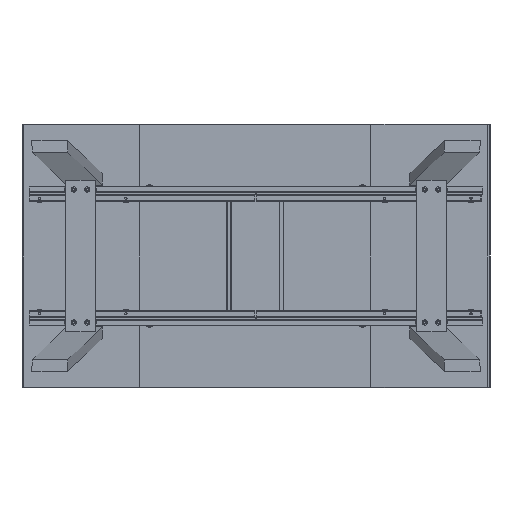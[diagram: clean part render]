
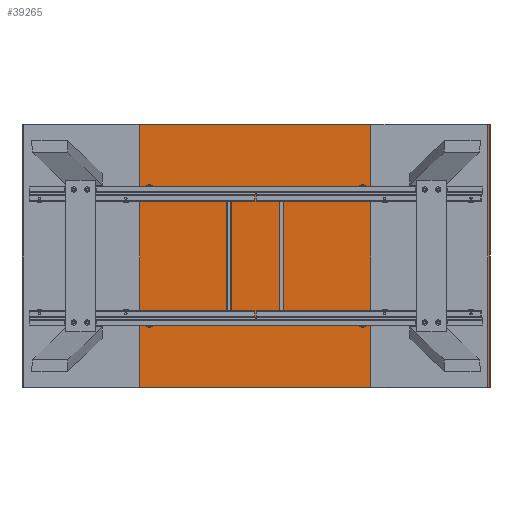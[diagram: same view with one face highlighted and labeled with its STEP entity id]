
A CAD part, front view. The second image highlights one B-rep face of the part: STEP entity #39265.
In plain terms, the highlighted planar face has unit normal (0, -1, 0).
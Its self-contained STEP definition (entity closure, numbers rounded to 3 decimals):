
#154 = LINE ( 'NONE', #54531, #25796 ) ;
#1361 = CARTESIAN_POINT ( 'NONE',  ( 799., 0., 450. ) ) ;
#2771 = ORIENTED_EDGE ( 'NONE', *, *, #7259, .T. ) ;
#5548 = LINE ( 'NONE', #62062, #14655 ) ;
#7259 = EDGE_CURVE ( 'NONE', #16899, #40332, #20640, .T. ) ;
#10234 = EDGE_CURVE ( 'NONE', #13666, #16899, #154, .T. ) ;
#13046 = CARTESIAN_POINT ( 'NONE',  ( 799., 0., -449. ) ) ;
#13666 = VERTEX_POINT ( 'NONE', #63389 ) ;
#14655 = VECTOR ( 'NONE', #62278, 1000. ) ;
#14909 = ORIENTED_EDGE ( 'NONE', *, *, #10234, .T. ) ;
#15692 = VECTOR ( 'NONE', #56361, 1000. ) ;
#16899 = VERTEX_POINT ( 'NONE', #27655 ) ;
#20640 = LINE ( 'NONE', #28948, #15692 ) ;
#22155 = CARTESIAN_POINT ( 'NONE',  ( 799., 0., 449. ) ) ;
#22765 = DIRECTION ( 'NONE',  ( 0., 0., -1. ) ) ;
#24491 = AXIS2_PLACEMENT_3D ( 'NONE', #62281, #37523, #57011 ) ;
#25796 = VECTOR ( 'NONE', #22765, 1000. ) ;
#27655 = CARTESIAN_POINT ( 'NONE',  ( -799., 0., -449. ) ) ;
#28948 = CARTESIAN_POINT ( 'NONE',  ( -800., 0., -449. ) ) ;
#32965 = EDGE_CURVE ( 'NONE', #40332, #52024, #42682, .T. ) ;
#34667 = ORIENTED_EDGE ( 'NONE', *, *, #60281, .T. ) ;
#37523 = DIRECTION ( 'NONE',  ( 0., 1., 0. ) ) ;
#38624 = FACE_OUTER_BOUND ( 'NONE', #41461, .T. ) ;
#39265 = ADVANCED_FACE ( 'NONE', ( #38624 ), #63888, .F. ) ;
#40332 = VERTEX_POINT ( 'NONE', #13046 ) ;
#41461 = EDGE_LOOP ( 'NONE', ( #54443, #34667, #14909, #2771 ) ) ;
#42682 = LINE ( 'NONE', #1361, #56035 ) ;
#52024 = VERTEX_POINT ( 'NONE', #22155 ) ;
#54443 = ORIENTED_EDGE ( 'NONE', *, *, #32965, .T. ) ;
#54531 = CARTESIAN_POINT ( 'NONE',  ( -799., 0., 450. ) ) ;
#56035 = VECTOR ( 'NONE', #65230, 1000. ) ;
#56361 = DIRECTION ( 'NONE',  ( 1., 0., 0. ) ) ;
#57011 = DIRECTION ( 'NONE',  ( 0., 0., 1. ) ) ;
#60281 = EDGE_CURVE ( 'NONE', #52024, #13666, #5548, .T. ) ;
#62062 = CARTESIAN_POINT ( 'NONE',  ( -800., 0., 449. ) ) ;
#62278 = DIRECTION ( 'NONE',  ( -1., 0., 0. ) ) ;
#62281 = CARTESIAN_POINT ( 'NONE',  ( -800., 0., 450. ) ) ;
#63389 = CARTESIAN_POINT ( 'NONE',  ( -799., 0., 449. ) ) ;
#63888 = PLANE ( 'NONE',  #24491 ) ;
#65230 = DIRECTION ( 'NONE',  ( 0., 0., 1. ) ) ;
